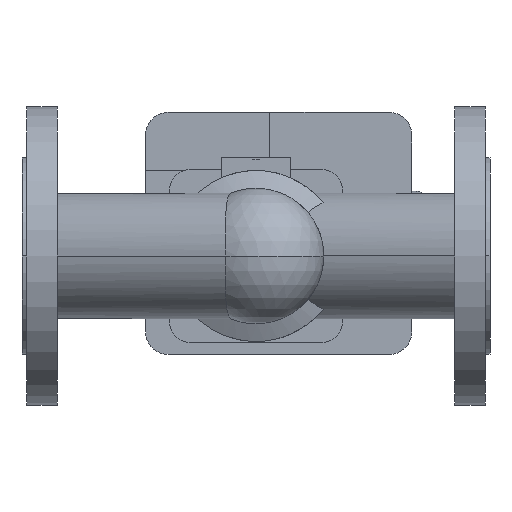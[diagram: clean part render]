
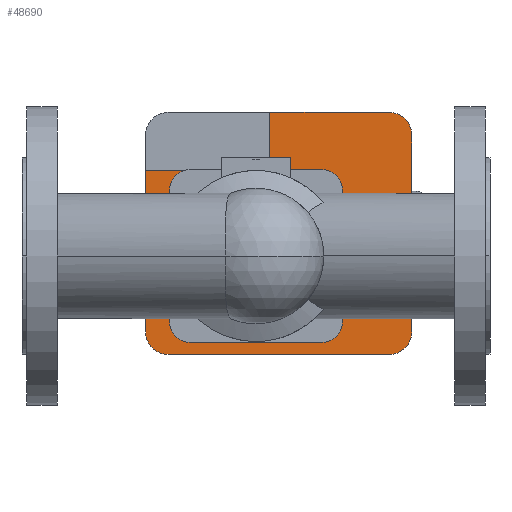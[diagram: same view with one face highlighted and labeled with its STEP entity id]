
A CAD part, front view. The second image highlights one B-rep face of the part: STEP entity #48690.
In plain terms, the highlighted planar face has unit normal (0, -1, 0).
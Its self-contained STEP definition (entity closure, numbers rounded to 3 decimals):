
#40430=CARTESIAN_POINT('',(204.96,339.,11.216));
#40440=VERTEX_POINT('',#40430);
#40470=CARTESIAN_POINT('',(195.,339.,0.));
#40480=DIRECTION('',(0.,1.,0.));
#40490=DIRECTION('',(0.,0.,1.));
#40500=AXIS2_PLACEMENT_3D('',#40470,#40480,#40490);
#40510=CIRCLE('',#40500,15.);
#40520=CARTESIAN_POINT('',(204.96,339.,-11.216));
#40530=VERTEX_POINT('',#40520);
#40540=EDGE_CURVE('',#40440,#40530,#40510,.T.);
#43260=CARTESIAN_POINT('',(187.116,339.,44.128));
#43270=VERTEX_POINT('',#43260);
#43300=CARTESIAN_POINT('',(145.,339.,0.));
#43310=DIRECTION('',(0.,1.,0.));
#43320=DIRECTION('',(0.69,0.,0.723));
#43330=AXIS2_PLACEMENT_3D('',#43300,#43310,#43320);
#43340=CIRCLE('',#43330,61.);
#43350=EDGE_CURVE('',#43270,#40440,#43340,.T.);
#43740=CARTESIAN_POINT('',(85.04,339.,-11.216));
#43750=VERTEX_POINT('',#43740);
#43780=CARTESIAN_POINT('',(95.,339.,0.));
#43790=DIRECTION('',(0.,1.,0.));
#43800=DIRECTION('',(0.,0.,-1.));
#43810=AXIS2_PLACEMENT_3D('',#43780,#43790,#43800);
#43820=CIRCLE('',#43810,15.);
#43830=CARTESIAN_POINT('',(85.04,339.,11.216));
#43840=VERTEX_POINT('',#43830);
#43850=EDGE_CURVE('',#43750,#43840,#43820,.T.);
#44840=CARTESIAN_POINT('',(102.884,339.,-44.128));
#44850=VERTEX_POINT('',#44840);
#44880=CARTESIAN_POINT('',(145.,339.,0.));
#44890=DIRECTION('',(0.,1.,0.));
#44900=DIRECTION('',(-0.69,0.,-0.723));
#44910=AXIS2_PLACEMENT_3D('',#44880,#44890,#44900);
#44920=CIRCLE('',#44910,61.);
#44930=EDGE_CURVE('',#44850,#43750,#44920,.T.);
#47150=CARTESIAN_POINT('',(145.,339.,0.));
#47160=DIRECTION('',(0.,1.,0.));
#47170=DIRECTION('',(0.,0.,1.));
#47180=AXIS2_PLACEMENT_3D('',#47150,#47160,#47170);
#47190=PLANE('',#47180);
#47200=ORIENTED_EDGE('',*,*,#43350,.T.);
#47210=CARTESIAN_POINT('',(177.45,339.,34.));
#47220=DIRECTION('',(0.,1.,0.));
#47230=DIRECTION('',(0.,0.,1.));
#47240=AXIS2_PLACEMENT_3D('',#47210,#47220,#47230);
#47250=CIRCLE('',#47240,14.);
#47260=CARTESIAN_POINT('',(177.45,339.,48.));
#47270=VERTEX_POINT('',#47260);
#47280=EDGE_CURVE('',#47270,#43270,#47250,.T.);
#47290=ORIENTED_EDGE('',*,*,#47280,.T.);
#47300=CARTESIAN_POINT('',(128.775,339.,48.));
#47310=DIRECTION('',(1.,0.,0.));
#47320=VECTOR('',#47310,1.);
#47330=LINE('',#47300,#47320);
#47340=CARTESIAN_POINT('',(112.55,339.,48.));
#47350=VERTEX_POINT('',#47340);
#47360=EDGE_CURVE('',#47350,#47270,#47330,.T.);
#47370=ORIENTED_EDGE('',*,*,#47360,.T.);
#47380=CARTESIAN_POINT('',(112.55,339.,34.));
#47390=DIRECTION('',(0.,1.,0.));
#47400=DIRECTION('',(-0.69,0.,0.723));
#47410=AXIS2_PLACEMENT_3D('',#47380,#47390,#47400);
#47420=CIRCLE('',#47410,14.);
#47430=CARTESIAN_POINT('',(102.884,339.,44.128));
#47440=VERTEX_POINT('',#47430);
#47450=EDGE_CURVE('',#47440,#47350,#47420,.T.);
#47460=ORIENTED_EDGE('',*,*,#47450,.T.);
#47470=CARTESIAN_POINT('',(145.,339.,0.));
#47480=DIRECTION('',(0.,1.,0.));
#47490=DIRECTION('',(-0.69,0.,-0.723));
#47500=AXIS2_PLACEMENT_3D('',#47470,#47480,#47490);
#47510=CIRCLE('',#47500,61.);
#47520=EDGE_CURVE('',#43840,#47440,#47510,.T.);
#47530=ORIENTED_EDGE('',*,*,#47520,.T.);
#47540=ORIENTED_EDGE('',*,*,#43850,.T.);
#47550=ORIENTED_EDGE('',*,*,#44930,.T.);
#47560=CARTESIAN_POINT('',(112.55,339.,-34.));
#47570=DIRECTION('',(0.,1.,0.));
#47580=DIRECTION('',(0.,0.,-1.));
#47590=AXIS2_PLACEMENT_3D('',#47560,#47570,#47580);
#47600=CIRCLE('',#47590,14.);
#47610=CARTESIAN_POINT('',(112.55,339.,-48.));
#47620=VERTEX_POINT('',#47610);
#47630=EDGE_CURVE('',#47620,#44850,#47600,.T.);
#47640=ORIENTED_EDGE('',*,*,#47630,.T.);
#47650=CARTESIAN_POINT('',(161.225,339.,-48.));
#47660=DIRECTION('',(-1.,0.,0.));
#47670=VECTOR('',#47660,1.);
#47680=LINE('',#47650,#47670);
#47690=CARTESIAN_POINT('',(177.45,339.,-48.));
#47700=VERTEX_POINT('',#47690);
#47710=EDGE_CURVE('',#47700,#47620,#47680,.T.);
#47720=ORIENTED_EDGE('',*,*,#47710,.T.);
#47730=CARTESIAN_POINT('',(177.45,339.,-34.));
#47740=DIRECTION('',(0.,1.,0.));
#47750=DIRECTION('',(0.69,0.,-0.723));
#47760=AXIS2_PLACEMENT_3D('',#47730,#47740,#47750);
#47770=CIRCLE('',#47760,14.);
#47780=CARTESIAN_POINT('',(187.116,339.,-44.128));
#47790=VERTEX_POINT('',#47780);
#47800=EDGE_CURVE('',#47790,#47700,#47770,.T.);
#47810=ORIENTED_EDGE('',*,*,#47800,.T.);
#47820=CARTESIAN_POINT('',(145.,339.,0.));
#47830=DIRECTION('',(0.,1.,0.));
#47840=DIRECTION('',(0.69,0.,0.723));
#47850=AXIS2_PLACEMENT_3D('',#47820,#47830,#47840);
#47860=CIRCLE('',#47850,61.);
#47870=EDGE_CURVE('',#40530,#47790,#47860,.T.);
#47880=ORIENTED_EDGE('',*,*,#47870,.T.);
#47890=ORIENTED_EDGE('',*,*,#40540,.T.);
#47900=EDGE_LOOP('',(#47890,#47880,#47810,#47720,#47640,#47550,#47540,
#47530,#47460,#47370,#47290,#47200));
#47910=FACE_BOUND('',#47900,.T.);
#47920=CARTESIAN_POINT('',(153.6,339.,26.5));
#47930=DIRECTION('',(0.,0.,-1.));
#47940=VECTOR('',#47930,1.);
#47950=LINE('',#47920,#47940);
#47960=CARTESIAN_POINT('',(153.6,339.,89.));
#47970=VERTEX_POINT('',#47960);
#47980=CARTESIAN_POINT('',(153.6,339.,53.));
#47990=VERTEX_POINT('',#47980);
#48000=EDGE_CURVE('',#47970,#47990,#47950,.T.);
#48010=ORIENTED_EDGE('',*,*,#48000,.T.);
#48020=CARTESIAN_POINT('',(90.6,339.,89.));
#48030=DIRECTION('',(1.,0.,0.));
#48040=VECTOR('',#48030,1.);
#48050=LINE('',#48020,#48040);
#48060=CARTESIAN_POINT('',(227.6,339.,89.));
#48070=VERTEX_POINT('',#48060);
#48080=EDGE_CURVE('',#47970,#48070,#48050,.T.);
#48090=ORIENTED_EDGE('',*,*,#48080,.F.);
#48100=CARTESIAN_POINT('',(227.6,339.,75.));
#48110=DIRECTION('',(0.,1.,0.));
#48120=DIRECTION('',(0.,0.,1.));
#48130=AXIS2_PLACEMENT_3D('',#48100,#48110,#48120);
#48140=CIRCLE('',#48130,14.);
#48150=CARTESIAN_POINT('',(241.6,339.,75.));
#48160=VERTEX_POINT('',#48150);
#48170=EDGE_CURVE('',#48070,#48160,#48140,.T.);
#48180=ORIENTED_EDGE('',*,*,#48170,.F.);
#48190=CARTESIAN_POINT('',(241.6,339.,75.));
#48200=DIRECTION('',(0.,0.,-1.));
#48210=VECTOR('',#48200,1.);
#48220=LINE('',#48190,#48210);
#48230=CARTESIAN_POINT('',(241.6,339.,-47.));
#48240=VERTEX_POINT('',#48230);
#48250=EDGE_CURVE('',#48160,#48240,#48220,.T.);
#48260=ORIENTED_EDGE('',*,*,#48250,.F.);
#48270=CARTESIAN_POINT('',(227.6,339.,-47.));
#48280=DIRECTION('',(0.,1.,0.));
#48290=DIRECTION('',(1.,0.,0.));
#48300=AXIS2_PLACEMENT_3D('',#48270,#48280,#48290);
#48310=CIRCLE('',#48300,14.);
#48320=CARTESIAN_POINT('',(227.6,339.,-61.));
#48330=VERTEX_POINT('',#48320);
#48340=EDGE_CURVE('',#48240,#48330,#48310,.T.);
#48350=ORIENTED_EDGE('',*,*,#48340,.F.);
#48360=CARTESIAN_POINT('',(227.6,339.,-61.));
#48370=DIRECTION('',(-1.,0.,0.));
#48380=VECTOR('',#48370,1.);
#48390=LINE('',#48360,#48380);
#48400=CARTESIAN_POINT('',(90.6,339.,-61.));
#48410=VERTEX_POINT('',#48400);
#48420=EDGE_CURVE('',#48330,#48410,#48390,.T.);
#48430=ORIENTED_EDGE('',*,*,#48420,.F.);
#48440=CARTESIAN_POINT('',(90.6,339.,-47.));
#48450=DIRECTION('',(0.,1.,0.));
#48460=DIRECTION('',(0.,0.,-1.));
#48470=AXIS2_PLACEMENT_3D('',#48440,#48450,#48460);
#48480=CIRCLE('',#48470,14.);
#48490=CARTESIAN_POINT('',(76.6,339.,-47.));
#48500=VERTEX_POINT('',#48490);
#48510=EDGE_CURVE('',#48410,#48500,#48480,.T.);
#48520=ORIENTED_EDGE('',*,*,#48510,.F.);
#48530=CARTESIAN_POINT('',(76.6,339.,-47.));
#48540=DIRECTION('',(0.,0.,1.));
#48550=VECTOR('',#48540,1.);
#48560=LINE('',#48530,#48550);
#48570=CARTESIAN_POINT('',(76.6,339.,53.));
#48580=VERTEX_POINT('',#48570);
#48590=EDGE_CURVE('',#48500,#48580,#48560,.T.);
#48600=ORIENTED_EDGE('',*,*,#48590,.F.);
#48610=CARTESIAN_POINT('',(110.3,339.,53.));
#48620=DIRECTION('',(-1.,0.,0.));
#48630=VECTOR('',#48620,1.);
#48640=LINE('',#48610,#48630);
#48650=EDGE_CURVE('',#47990,#48580,#48640,.T.);
#48660=ORIENTED_EDGE('',*,*,#48650,.T.);
#48670=EDGE_LOOP('',(#48660,#48600,#48520,#48430,#48350,#48260,#48180,
#48090,#48010));
#48680=FACE_OUTER_BOUND('',#48670,.T.);
#48690=ADVANCED_FACE('',(#47910,#48680),#47190,.F.);
